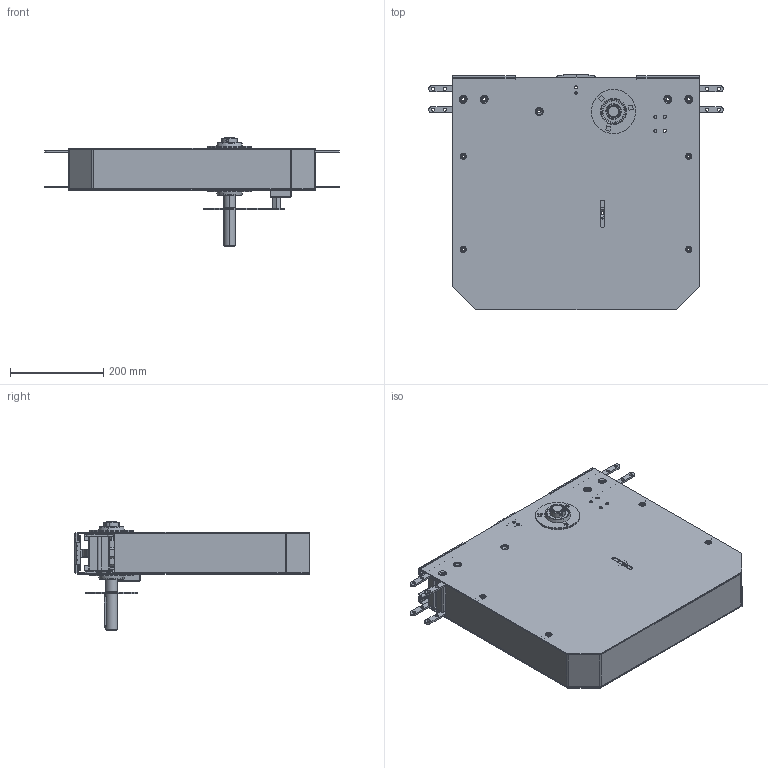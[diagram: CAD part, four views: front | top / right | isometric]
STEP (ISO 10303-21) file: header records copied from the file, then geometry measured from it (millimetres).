
FILE_DESCRIPTION (( 'STEP AP203' ), '1' );
FILE_NAME ('2000.325.649.STEP', '2017-03-20T15:46:39', ( 'Localadmin' ), ( 'Microsoft' ), 'SwSTEP 2.0', 'SolidWorks 2016', '' );
FILE_SCHEMA (( 'CONFIG_CONTROL_DESIGN' ));
Length unit declared in the file: millimetre
Products named in the file (1): 2000.325.649
Bounding box: 633 x 506.5 x 233.5 mm (x, y, z)
Surface area: 1572854.1 mm2 (no closed solid volume)
Topology: 0 solids, 91 shells, 910 faces, 3579 edges, 2740 vertices
Faces by surface type: plane 383, cylinder 374, cone 96, torus 45, bspline 12
Entity records: 39123 total; most frequent: CARTESIAN_POINT 7930, DIRECTION 7014, ORIENTED_EDGE 5432, EDGE_CURVE 3579, VERTEX_POINT 2740, AXIS2_PLACEMENT_3D 2572, LINE 1870, VECTOR 1870
